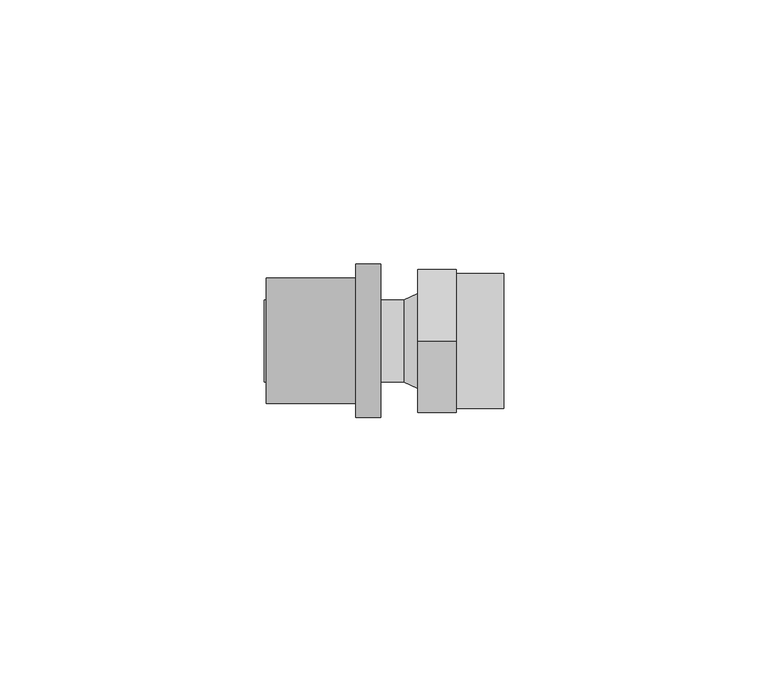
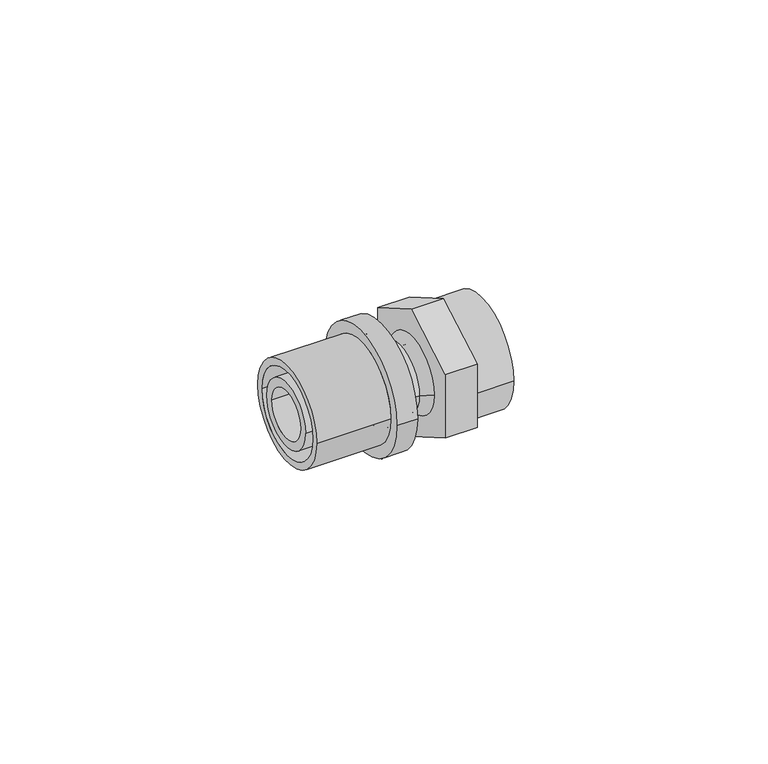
"""IFC4 building model written with IfcOpenShell, lengths in millimetres: pipe fitting geometry, FASTLOC_Adapter_EX+, with internal thread : FSL A internal AT."""

from ifc_helpers import new_model, si_unit, point, frame, origin, origin_2d, place, context, project, spatial, polyline, circle_curve, trimmed, segment, composite_curve, outline, extrude, source, transform, mapped, element, save
from ifc_brep_helpers import plane_surface, cylinder_surface, revolved_surface, advanced_brep


def pipe_fitting_db3e6b17(model_context):
    return source(origin(), model_context, "Body", "SolidModel", [
        advanced_brep(
        [(-11.7, -14.5, 0.0), (-11.7, 14.5, 0.0), (-7.0, 14.5, 0.0), (-7.0, -14.5, 0.0), (-28.7, -11.85, 0.0), (-28.7, 11.85, 0.0), (-11.7, 11.85, 0.0), (-11.7, -11.85, 0.0), (-7.0, -10.15, 0.0), (-7.0, 10.15, 0.0), (-28.7, 10.15, 0.0), (-28.7, -10.15, 0.0)],
        [
            (0, 1, circle_curve(frame((-11.7, 0.0, 0.0), z_axis=(1.0, 0.0, 0.0), x_axis=(0.0, 1.0, 0.0)), 14.5)),
            (1, 2),
            (2, 3, circle_curve(frame((-7.0, 0.0, 0.0), z_axis=(-1.0, 0.0, 0.0), x_axis=(0.0, 1.0, 0.0)), 14.5)),
            (3, 0),
            (4, 5, circle_curve(frame((-28.7, 0.0, 0.0), z_axis=(1.0, 0.0, 0.0), x_axis=(0.0, 1.0, 0.0)), 11.85)),
            (5, 6),
            (6, 7, circle_curve(frame((-11.7, 0.0, 0.0), z_axis=(-1.0, 0.0, 0.0), x_axis=(0.0, 1.0, 0.0)), 11.85)),
            (7, 4),
            (8, 9, circle_curve(frame((-7.0, 0.0, 0.0), z_axis=(1.0, 0.0, 0.0), x_axis=(0.0, 1.0, 0.0)), 10.15)),
            (9, 10),
            (10, 11, circle_curve(frame((-28.7, 0.0, 0.0), z_axis=(-1.0, 0.0, 0.0), x_axis=(0.0, 1.0, 0.0)), 10.15)),
            (11, 8),
            (1, 0, circle_curve(frame((-11.7, 0.0, 0.0), z_axis=(1.0, 0.0, 0.0), x_axis=(0.0, -1.0, 0.0)), 14.5)),
            (3, 2, circle_curve(frame((-7.0, 0.0, 0.0), z_axis=(-1.0, 0.0, 0.0), x_axis=(0.0, -1.0, 0.0)), 14.5)),
            (6, 7, circle_curve(frame((-11.7, 0.0, 0.0), z_axis=(1.0, 0.0, 0.0), x_axis=(0.0, -1.0, 0.0)), 11.85)),
            (5, 4, circle_curve(frame((-28.7, 0.0, 0.0), z_axis=(1.0, 0.0, 0.0), x_axis=(0.0, -1.0, 0.0)), 11.85)),
            (10, 11, circle_curve(frame((-28.7, 0.0, 0.0), z_axis=(1.0, 0.0, 0.0), x_axis=(0.0, -1.0, 0.0)), 10.15)),
            (9, 8, circle_curve(frame((-7.0, 0.0, 0.0), z_axis=(1.0, 0.0, 0.0), x_axis=(0.0, -1.0, 0.0)), 10.15)),
        ],
        [
            cylinder_surface(frame((-7.0, 0.0, 0.0), z_axis=(-1.0, 0.0, 0.0), x_axis=(0.0, 1.0, 0.0)), 14.5),
            cylinder_surface(frame((-7.0, 0.0, 0.0), z_axis=(-1.0, 0.0, 0.0), x_axis=(0.0, 1.0, 0.0)), 11.85),
            revolved_surface(polyline([(-28.7, 10.15, 0.0), (-7.0, 10.15, 0.0)]), (-7.0, 0.0, 0.0), (-1.0, 0.0, 0.0)),
            cylinder_surface(frame((-7.0, 0.0, 0.0), z_axis=(-1.0, 0.0, 0.0), x_axis=(0.0, -1.0, 0.0)), 14.5),
            plane_surface(frame((-11.7, 0.0, 0.0), z_axis=(-1.0, 0.0, 0.0), x_axis=(0.0, -1.0, 0.0))),
            cylinder_surface(frame((-7.0, 0.0, 0.0), z_axis=(-1.0, 0.0, 0.0), x_axis=(0.0, -1.0, 0.0)), 11.85),
            plane_surface(frame((-28.7, 0.0, 0.0), z_axis=(-1.0, 0.0, 0.0), x_axis=(0.0, -1.0, 0.0))),
            revolved_surface(polyline([(-28.7, -10.15, 0.0), (-7.0, -10.15, 0.0)]), (-7.0, 0.0, 0.0), (-1.0, 0.0, 0.0)),
            plane_surface(frame((-7.0, 0.0, 0.0), z_axis=(1.0, 0.0, 0.0), x_axis=(0.0, -1.0, 0.0))),
        ],
        [
            (0, [[1, 2, 3, 4]]),
            (1, [[5, 6, 7, 8]]),
            (2, [[9, 10, 11, 12]]),
            (3, [[13, -4, 14, -2]]),
            (4, [[-13, -1], [15, -7]]),
            (5, [[16, -8, -15, -6]]),
            (6, [[-16, -5], [17, -11]]),
            (7, [[18, -12, -17, -10]]),
            (8, [[-14, -3], [-18, -9]]),
        ],
    ),
        advanced_brep(
        [(-11.7, 7.75, 0.0), (-11.7, -7.75, 0.0), (-29.0, -7.75, 0.0), (-29.0, 7.75, 0.0), (-9.0, 9.0, 0.0), (-9.0, -9.0, 0.0), (-11.7, -9.0, 0.0), (-11.7, 9.0, 0.0), (-2.7, 7.75, 0.0), (-2.7, -7.75, 0.0), (-9.0, -7.75, 0.0), (-9.0, 7.75, 0.0), (0.0, 9.0, 0.0), (0.0, -9.0, 0.0), (-29.0, 5.75, 0.0), (-29.0, -5.75, 0.0), (0.0, -5.75, 0.0), (0.0, 5.75, 0.0)],
        [
            (0, 1, circle_curve(frame((-11.7, 0.0, 0.0), z_axis=(-1.0, 0.0, 0.0), x_axis=(0.0, -1.0, 0.0)), 7.75)),
            (1, 2),
            (2, 3, circle_curve(frame((-29.0, 0.0, 0.0), z_axis=(1.0, 0.0, 0.0), x_axis=(0.0, -1.0, 0.0)), 7.75)),
            (3, 0),
            (4, 5, circle_curve(frame((-9.0, 0.0, 0.0), z_axis=(-1.0, 0.0, 0.0), x_axis=(0.0, -1.0, 0.0)), 9.0)),
            (5, 6),
            (6, 7, circle_curve(frame((-11.7, 0.0, 0.0), z_axis=(1.0, 0.0, 0.0), x_axis=(0.0, -1.0, 0.0)), 9.0)),
            (7, 4),
            (8, 9, circle_curve(frame((-2.7, 0.0, 0.0), z_axis=(-1.0, 0.0, 0.0), x_axis=(0.0, -1.0, 0.0)), 7.75)),
            (9, 10),
            (10, 11, circle_curve(frame((-9.0, 0.0, 0.0), z_axis=(1.0, 0.0, 0.0), x_axis=(0.0, -1.0, 0.0)), 7.75)),
            (11, 8),
            (12, 13, circle_curve(frame((0.0, 0.0, 0.0), z_axis=(-1.0, 0.0, 0.0), x_axis=(0.0, -1.0, 0.0)), 9.0)),
            (13, 9),
            (8, 12),
            (14, 15, circle_curve(frame((-29.0, 0.0, 0.0), z_axis=(-1.0, 0.0, 0.0), x_axis=(0.0, -1.0, 0.0)), 5.75)),
            (15, 16),
            (16, 17, circle_curve(frame((0.0, 0.0, 0.0), z_axis=(1.0, 0.0, 0.0), x_axis=(0.0, -1.0, 0.0)), 5.75)),
            (17, 14),
            (2, 3, circle_curve(frame((-29.0, 0.0, 0.0), z_axis=(-1.0, 0.0, 0.0), x_axis=(0.0, 1.0, 0.0)), 7.75)),
            (14, 15, circle_curve(frame((-29.0, 0.0, 0.0), z_axis=(1.0, 0.0, 0.0), x_axis=(0.0, 1.0, 0.0)), 5.75)),
            (1, 0, circle_curve(frame((-11.7, 0.0, 0.0), z_axis=(-1.0, 0.0, 0.0), x_axis=(0.0, 1.0, 0.0)), 7.75)),
            (6, 7, circle_curve(frame((-11.7, 0.0, 0.0), z_axis=(-1.0, 0.0, 0.0), x_axis=(0.0, 1.0, 0.0)), 9.0)),
            (5, 4, circle_curve(frame((-9.0, 0.0, 0.0), z_axis=(-1.0, 0.0, 0.0), x_axis=(0.0, 1.0, 0.0)), 9.0)),
            (10, 11, circle_curve(frame((-9.0, 0.0, 0.0), z_axis=(-1.0, 0.0, 0.0), x_axis=(0.0, 1.0, 0.0)), 7.75)),
            (9, 8, circle_curve(frame((-2.7, 0.0, 0.0), z_axis=(-1.0, 0.0, 0.0), x_axis=(0.0, 1.0, 0.0)), 7.75)),
            (13, 12, circle_curve(frame((0.0, 0.0, 0.0), z_axis=(-1.0, 0.0, 0.0), x_axis=(0.0, 1.0, 0.0)), 9.0)),
            (16, 17, circle_curve(frame((0.0, 0.0, 0.0), z_axis=(-1.0, 0.0, 0.0), x_axis=(0.0, 1.0, 0.0)), 5.75)),
        ],
        [
            cylinder_surface(frame((0.0, 0.0, 0.0), z_axis=(1.0, 0.0, 0.0), x_axis=(0.0, -1.0, 0.0)), 7.75),
            cylinder_surface(frame((0.0, 0.0, 0.0), z_axis=(1.0, 0.0, 0.0), x_axis=(0.0, -1.0, 0.0)), 9.0),
            revolved_surface(polyline([(-2.7, -7.75, 0.0), (0.0, -9.0, 0.0)]), (0.0, 0.0, 0.0), (1.0, 0.0, 0.0)),
            revolved_surface(polyline([(0.0, -5.75, 0.0), (-29.0, -5.75, 0.0)]), (0.0, 0.0, 0.0), (1.0, 0.0, 0.0)),
            plane_surface(frame((-29.0, 0.0, 0.0), z_axis=(-1.0, 0.0, 0.0), x_axis=(0.0, 1.0, 0.0))),
            cylinder_surface(frame((0.0, 0.0, 0.0), z_axis=(1.0, 0.0, 0.0), x_axis=(0.0, 1.0, 0.0)), 7.75),
            plane_surface(frame((-11.7, 0.0, 0.0), z_axis=(-1.0, 0.0, 0.0), x_axis=(0.0, 1.0, 0.0))),
            cylinder_surface(frame((0.0, 0.0, 0.0), z_axis=(1.0, 0.0, 0.0), x_axis=(0.0, 1.0, 0.0)), 9.0),
            plane_surface(frame((-9.0, 0.0, 0.0), z_axis=(1.0, 0.0, 0.0), x_axis=(0.0, 1.0, 0.0))),
            revolved_surface(polyline([(-2.7, 7.75, 0.0), (0.0, 9.0, 0.0)]), (0.0, 0.0, 0.0), (1.0, 0.0, 0.0)),
            plane_surface(frame((0.0, 0.0, 0.0), z_axis=(1.0, 0.0, 0.0), x_axis=(0.0, 1.0, 0.0))),
            revolved_surface(polyline([(0.0, 5.75, 0.0), (-29.0, 5.75, 0.0)]), (0.0, 0.0, 0.0), (1.0, 0.0, 0.0)),
        ],
        [
            (0, [[1, 2, 3, 4]]),
            (1, [[5, 6, 7, 8]]),
            (0, [[9, 10, 11, 12]]),
            (2, [[13, 14, -9, 15]]),
            (3, [[16, 17, 18, 19]]),
            (4, [[20, -3], [21, -16]]),
            (5, [[22, -4, -20, -2]]),
            (6, [[23, -7], [-22, -1]]),
            (7, [[24, -8, -23, -6]]),
            (8, [[-24, -5], [25, -11]]),
            (5, [[26, -12, -25, -10]]),
            (9, [[27, -15, -26, -14]]),
            (10, [[-27, -13], [28, -18]]),
            (11, [[-21, -19, -28, -17]]),
        ],
    ),
        extrude(outline(polyline([(0.0, -15.5884573), (-13.5, -7.7942286), (-13.5, 7.7942286), (0.0, 15.5884573), (13.5, 7.7942286), (13.5, -7.7942286), (0.0, -15.5884573)]), holes=[composite_curve([segment(trimmed(circle_curve(origin_2d(), 5.75), [point((-5.75, 0.0))], [point((5.75, 0.0))], True, "CARTESIAN"), True, "CONTINUOUS"), segment(trimmed(circle_curve(origin_2d(), 5.75), [point((5.75, 0.0))], [point((-5.75, 0.0))], True, "CARTESIAN"), True, "CONTINUOUS")], self_intersect=False)]), frame((0.0, 0.0, 0.0), z_axis=(1.0, 0.0, 0.0), x_axis=(0.0, 1.0, 0.0)), (0.0, 0.0, 1.0), 7.3),
        extrude(outline(composite_curve([segment(trimmed(circle_curve(origin_2d(), 12.75), [point((-12.75, 0.0))], [point((12.75, 0.0))], False, "CARTESIAN"), True, "CONTINUOUS"), segment(trimmed(circle_curve(origin_2d(), 12.75), [point((12.75, 0.0))], [point((-12.75, 0.0))], False, "CARTESIAN"), True, "CONTINUOUS")], self_intersect=False), holes=[composite_curve([segment(trimmed(circle_curve(origin_2d(), 9.35), [point((-9.35, 0.0))], [point((9.35, 0.0))], True, "CARTESIAN"), True, "CONTINUOUS"), segment(trimmed(circle_curve(origin_2d(), 9.35), [point((9.35, 0.0))], [point((-9.35, 0.0))], True, "CARTESIAN"), True, "CONTINUOUS")], self_intersect=False)]), frame((7.3, 0.0, 0.0), z_axis=(1.0, 0.0, 0.0), x_axis=(0.0, 1.0, 0.0)), (0.0, 0.0, 1.0), 8.9),
    ])


if __name__ == "__main__":
    model = new_model("IFC4")
    model_context = context("Model", 3, world=origin())
    ifc_project = project(units=[si_unit("LENGTHUNIT", "METRE", prefix="MILLI")], contexts=[model_context])
    site = spatial("IfcSite", under=ifc_project)
    building = spatial("IfcBuilding", under=site)
    placement = place(None, origin())
    pipe_fitting_shape = pipe_fitting_db3e6b17(model_context)
    element("IfcPipeFitting", 1, ObjectType="FASTLOC_Adapter_EX+, with internal thread : FSL A internal AT", at=placement, inside=building, context=model_context, shape_type="MappedRepresentation", body=[
        mapped(pipe_fitting_shape, transform((0.0, 0.0, 0.0), x_axis=(1.0, 0.0, 0.0), y_axis=(0.0, 1.0, 0.0), z_axis=(0.0, 0.0, 1.0))),
    ])
    save(model, "model.ifc")
